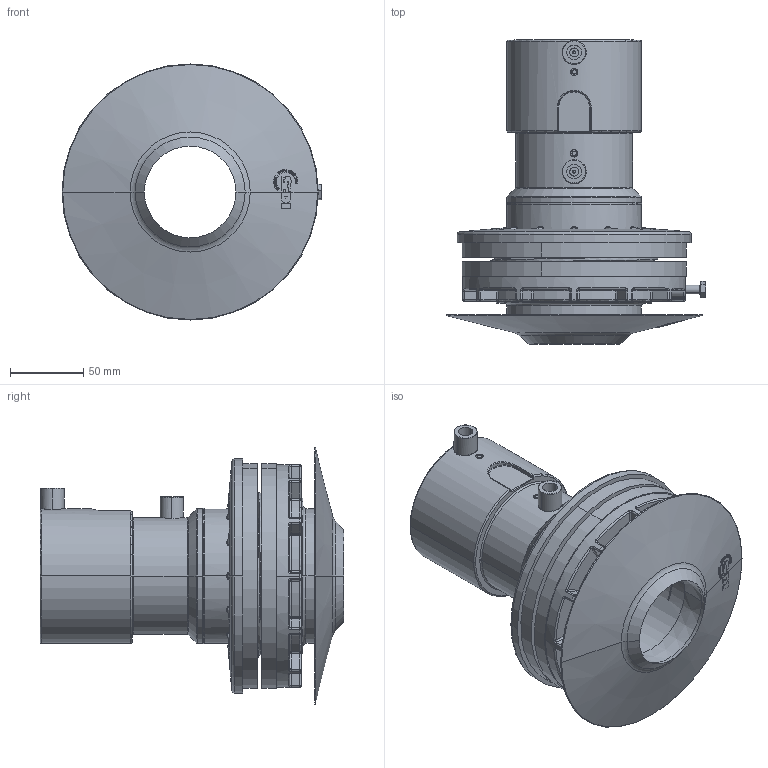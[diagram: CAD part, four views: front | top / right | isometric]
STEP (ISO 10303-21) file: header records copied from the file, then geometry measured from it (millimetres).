
FILE_DESCRIPTION (( 'STEP AP203' ), '1' );
FILE_NAME ('KPTM_75-63SC03.step', '2011-08-08T11:44:33', ( '' ), ( '' ), 'SwSTEP 2.0', 'SolidWorks 2011', '' );
FILE_SCHEMA (( 'CONFIG_CONTROL_DESIGN' ));
Length unit declared in the file: millimetre
Products named in the file (1): KPTM_75-63SC03
Bounding box: 177.5 x 207.67 x 175 mm (x, y, z)
Volume: 943759.7 mm3; surface area: 277333.1 mm2
Topology: 4 solids, 4 shells, 1120 faces, 2712 edges, 1549 vertices
Faces by surface type: cylinder 284, plane 284, bspline 252, torus 158, cone 92, sphere 50
Entity records: 45111 total; most frequent: CARTESIAN_POINT 22127, ORIENTED_EDGE 5228, DIRECTION 4219, EDGE_CURVE 2614, AXIS2_PLACEMENT_3D 1785, VERTEX_POINT 1549, EDGE_LOOP 1175, FACE_OUTER_BOUND 1120
